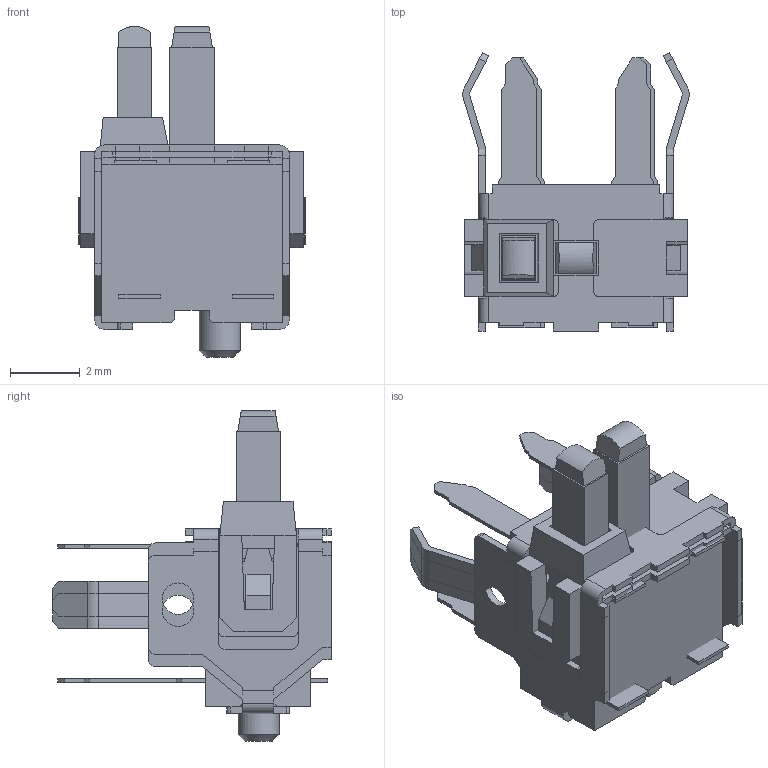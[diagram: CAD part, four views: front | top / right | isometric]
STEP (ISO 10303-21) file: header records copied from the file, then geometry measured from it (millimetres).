
FILE_DESCRIPTION( ( 'Unknown' ), '1' );
FILE_NAME( '//Ntcw022/Edgesv/fsw/ユーザ提出用データ/ﾃﾞｨﾃｸﾀｰｽｲｯﾁ/ESE11/ese11sh1c-sk.stp', 'Unknown', ( 'Unknown' ), ( 'Unknown' ), 'PSStep 14.0', 'Unknown', ' ' );
FILE_SCHEMA( ( 'AUTOMOTIVE_DESIGN { 1 0 10303 214 1 1 1 1 }' ) );
Length unit declared in the file: millimetre
Products named in the file (7): Assem1; E11CS1; E11TS1AtypeC; E11CV; E11LV; E11TF5-1
Bounding box: 6.5 x 8 x 9.5 mm (x, y, z)
Volume: 187.4 mm3; surface area: 747 mm2
Topology: 12 solids, 12 shells, 666 faces, 1912 edges, 1262 vertices
Faces by surface type: plane 582, cylinder 82, cone 2
Full cylindrical faces by diameter (mm): 0.9 x4, 1.18 x2
Entity records: 13087 total; most frequent: CARTESIAN_POINT 1919, ORIENTED_EDGE 1900, DIRECTION 1719, EDGE_CURVE 950, LINE 861, VECTOR 861, VERTEX_POINT 629, AXIS2_PLACEMENT_3D 429
